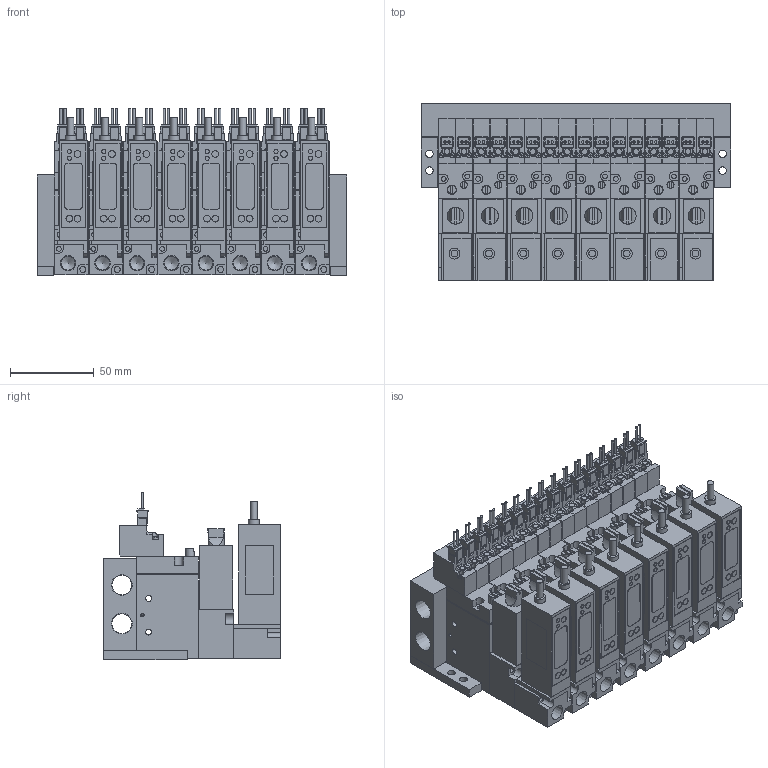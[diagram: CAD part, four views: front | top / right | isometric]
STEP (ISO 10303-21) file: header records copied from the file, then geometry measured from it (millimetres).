
FILE_DESCRIPTION(('STEP AP203'),'1');
FILE_NAME('BMPV32M2NV(R)G25BL808.stp','2025-06-17T01:10:05',(' '),(' '),'Spatial InterOp 3D',' ',' ');
FILE_SCHEMA(('CONFIG_CONTROL_DESIGN'));
Length unit declared in the file: millimetre
Products named in the file (100): BMPV32M2NV(R)G25BL808; Pressure sensor VGL; ___-3(Rc); Filter Assy; __; _____; ___ ___; MB BRACKET; MB08; VACUUM VALVE FUNCTION MPV42-A; ___; upper plate-A; ______; ____
Assembly tree (99 placements, depth 2):
  BMPV32M2NV(R)G25BL808
    Pressure sensor VGL
    ___-3(Rc)
    Filter Assy
    __
    _____
    ___ ___
    Pressure sensor VGL
    ___-3(Rc)
    Filter Assy
    __
    _____
    ___ ___
    Pressure sensor VGL
    ___-3(Rc)
    Filter Assy
    __
    _____
    ___ ___
    Pressure sensor VGL
    ___-3(Rc)
    Filter Assy
    __
    _____
    ___ ___
    Pressure sensor VGL
    ___-3(Rc)
    Filter Assy
    __
    _____
    ___ ___
    Pressure sensor VGL
    ___-3(Rc)
    Filter Assy
    __
    _____
    ___ ___
    Pressure sensor VGL
    ___-3(Rc)
    Filter Assy
    __
    _____
    ___ ___
    MB BRACKET
    MB08
    MB BRACKET
    Pressure sensor VGL
    ___-3(Rc)
    Filter Assy
    __
    _____
    ___ ___
    VACUUM VALVE FUNCTION MPV42-A
    ___
    upper plate-A
    ______
    ____
    VACUUM VALVE FUNCTION MPV42-A
    VACUUM VALVE FUNCTION MPV42-A
    ___
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Bounding box: 184.5 x 105.5 x 99.75 mm (x, y, z)
Volume: 1046702 mm3; surface area: 339456.9 mm2
Topology: 99 solids, 99 shells, 3039 faces, 7900 edges, 5272 vertices
Faces by surface type: plane 2429, cylinder 546, cone 64
Full cylindrical faces by diameter (mm): 1.4 x32, 1.8 x16, 2 x16, 2.5 x36, 2.8 x32, 3 x32, 3.5 x84, 4 x40, 4.2 x8, 4.5 x4, 5 x8, 5.5 x8, 6.5 x14, 8.2 x8, 8.759 x8, 11.776 x2
Entity records: 94622 total; most frequent: CARTESIAN_POINT 16127, DIRECTION 14906, ORIENTED_EDGE 14552, EDGE_CURVE 7276, LINE 5860, VECTOR 5860, VERTEX_POINT 5120, AXIS2_PLACEMENT_3D 4523
